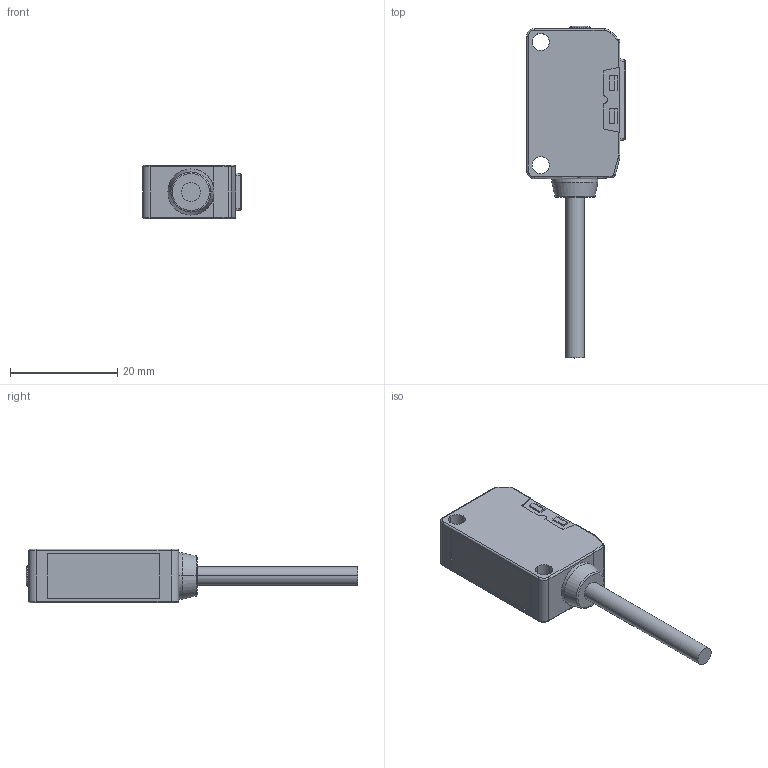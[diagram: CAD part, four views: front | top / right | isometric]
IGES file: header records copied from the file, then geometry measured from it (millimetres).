
Start section: Elysium IGES Interface
Global section: file name: 66HH:\Documents and Settings\y-shirakawa\デスクトップ\BGS-S_Cable.igs; native system: CoCreate Modeling 16.50A  01-Dec-2009; preprocessor: CoCreate IGES_3D V2.2; author: Unknown; organization: Unknown; date: 20101202.111426; units: millimetre
Bounding box: 18.4 x 61.99 x 10 mm (x, y, z)
Volume: 5160.6 mm3; surface area: 2460.9 mm2
Topology: 1 solids, 1 shells, 134 faces, 323 edges, 200 vertices
Faces by surface type: bspline 134
